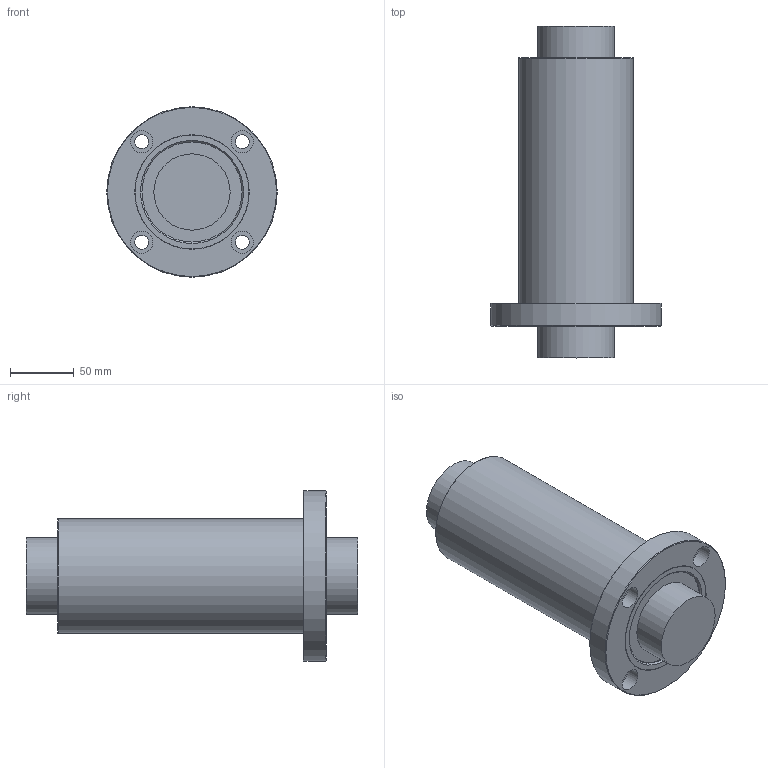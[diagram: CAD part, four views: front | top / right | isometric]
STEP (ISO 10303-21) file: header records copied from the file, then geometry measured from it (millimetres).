
FILE_DESCRIPTION((''),'2;1');
FILE_NAME('D:\STEP\EUROPE\BLANK\LMEF L\LMEF60L.stp','2013-02-05T17:59:36',('user2'),(''),'Autodesk Inventor 2012','Autodesk Inventor 2012','');
FILE_SCHEMA(('AUTOMOTIVE_DESIGN { 1 0 10303 214 1 1 1 1 }'));
Length unit declared in the file: millimetre
Products named in the file (1): LMEF60L
Bounding box: 134 x 261 x 134 mm (x, y, z)
Volume: 1601286 mm3; surface area: 103603.4 mm2
Topology: 1 solids, 1 shells, 33 faces, 59 edges, 38 vertices
Faces by surface type: cylinder 15, plane 12, cone 4, torus 2
Full cylindrical faces by diameter (mm): 11 x4, 17.5 x4, 60 x2, 78.7 x2, 90 x2, 134 x1
Entity records: 736 total; most frequent: DIRECTION 140, CARTESIAN_POINT 106, ORIENTED_EDGE 72, EDGE_LOOP 72, AXIS2_PLACEMENT_3D 70, FACE_BOUND 39, VERTEX_POINT 36, CIRCLE 36
